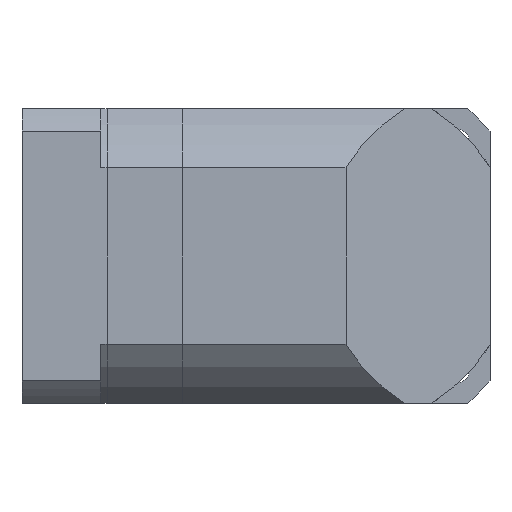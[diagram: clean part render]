
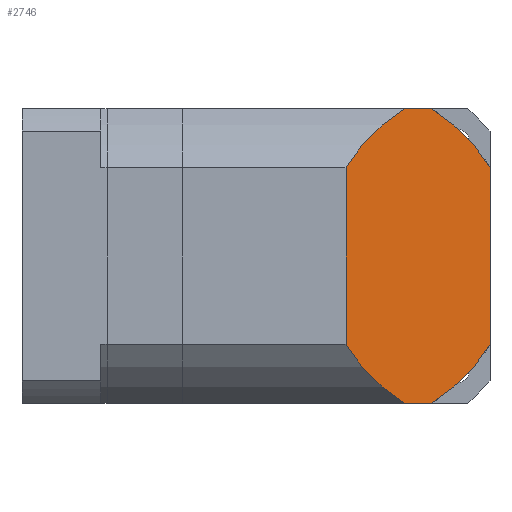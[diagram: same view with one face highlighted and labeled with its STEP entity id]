
A CAD part, left-side view. The second image highlights one B-rep face of the part: STEP entity #2746.
In plain terms, the highlighted planar face has unit normal (-0.707, -0.707, 0).
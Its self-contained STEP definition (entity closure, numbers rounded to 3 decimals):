
#531=PLANE('',#8536);
#1000=(
BOUNDED_CURVE()
B_SPLINE_CURVE(3,(#12584,#12585,#12586,#12587),.UNSPECIFIED.,.F.,.F.)
B_SPLINE_CURVE_WITH_KNOTS((4,4),(0.,1.),.UNSPECIFIED.)
CURVE()
GEOMETRIC_REPRESENTATION_ITEM()
RATIONAL_B_SPLINE_CURVE((1.,0.98,0.98,1.))
REPRESENTATION_ITEM('')
);
#1001=(
BOUNDED_CURVE()
B_SPLINE_CURVE(3,(#12596,#12597,#12598,#12599),.UNSPECIFIED.,.F.,.F.)
B_SPLINE_CURVE_WITH_KNOTS((4,4),(0.,1.),.UNSPECIFIED.)
CURVE()
GEOMETRIC_REPRESENTATION_ITEM()
RATIONAL_B_SPLINE_CURVE((1.,0.98,0.98,1.))
REPRESENTATION_ITEM('')
);
#1002=(
BOUNDED_CURVE()
B_SPLINE_CURVE(3,(#12624,#12625,#12626,#12627),.UNSPECIFIED.,.F.,.F.)
B_SPLINE_CURVE_WITH_KNOTS((4,4),(0.,1.),.UNSPECIFIED.)
CURVE()
GEOMETRIC_REPRESENTATION_ITEM()
RATIONAL_B_SPLINE_CURVE((1.,0.98,0.98,1.))
REPRESENTATION_ITEM('')
);
#1003=(
BOUNDED_CURVE()
B_SPLINE_CURVE(3,(#12636,#12637,#12638,#12639),.UNSPECIFIED.,.F.,.F.)
B_SPLINE_CURVE_WITH_KNOTS((4,4),(0.,1.),.UNSPECIFIED.)
CURVE()
GEOMETRIC_REPRESENTATION_ITEM()
RATIONAL_B_SPLINE_CURVE((1.,0.98,0.98,1.))
REPRESENTATION_ITEM('')
);
#1579=LINE('',#12724,#2167);
#1582=LINE('',#12728,#2170);
#1585=LINE('',#12732,#2173);
#1589=LINE('',#12744,#2177);
#2167=VECTOR('',#9638,1.);
#2170=VECTOR('',#9643,1.);
#2173=VECTOR('',#9648,1.);
#2177=VECTOR('',#9668,1.);
#2746=ADVANCED_FACE('',(#3240),#531,.F.);
#3240=FACE_OUTER_BOUND('',#3686,.T.);
#3686=EDGE_LOOP('',(#4371,#4372,#4373,#4374,#4375,#4376,#4377,#4378));
#4371=ORIENTED_EDGE('',*,*,#7389,.F.);
#4372=ORIENTED_EDGE('',*,*,#7314,.T.);
#4373=ORIENTED_EDGE('',*,*,#7377,.F.);
#4374=ORIENTED_EDGE('',*,*,#7330,.T.);
#4375=ORIENTED_EDGE('',*,*,#7380,.T.);
#4376=ORIENTED_EDGE('',*,*,#7334,.T.);
#4377=ORIENTED_EDGE('',*,*,#7374,.T.);
#4378=ORIENTED_EDGE('',*,*,#7318,.T.);
#6565=VERTEX_POINT('',#12578);
#6568=VERTEX_POINT('',#12583);
#6569=VERTEX_POINT('',#12590);
#6572=VERTEX_POINT('',#12595);
#6581=VERTEX_POINT('',#12623);
#6582=VERTEX_POINT('',#12628);
#6585=VERTEX_POINT('',#12635);
#6586=VERTEX_POINT('',#12640);
#7314=EDGE_CURVE('',#6565,#6568,#1000,.T.);
#7318=EDGE_CURVE('',#6569,#6572,#1001,.T.);
#7330=EDGE_CURVE('',#6582,#6581,#1002,.T.);
#7334=EDGE_CURVE('',#6586,#6585,#1003,.T.);
#7374=EDGE_CURVE('',#6585,#6569,#1579,.T.);
#7377=EDGE_CURVE('',#6582,#6568,#1582,.T.);
#7380=EDGE_CURVE('',#6581,#6586,#1585,.T.);
#7389=EDGE_CURVE('',#6565,#6572,#1589,.T.);
#8536=AXIS2_PLACEMENT_3D('',#12745,#9669,#9670);
#9638=DIRECTION('',(0.707,-0.707,0.));
#9643=DIRECTION('',(0.707,-0.707,0.));
#9648=DIRECTION('',(0.,0.,-1.));
#9668=DIRECTION('',(0.,0.,-1.));
#9669=DIRECTION('',(0.707,0.707,0.));
#9670=DIRECTION('',(0.,0.,1.));
#12578=CARTESIAN_POINT('',(-22.755,-54.534,154.177));
#12583=CARTESIAN_POINT('',(-40.714,-36.576,172.135));
#12584=CARTESIAN_POINT('',(-22.755,-54.534,154.177));
#12585=CARTESIAN_POINT('',(-27.204,-50.086,161.58));
#12586=CARTESIAN_POINT('',(-33.311,-43.979,167.687));
#12587=CARTESIAN_POINT('',(-40.714,-36.576,172.135));
#12590=CARTESIAN_POINT('',(-40.714,-36.576,82.135));
#12595=CARTESIAN_POINT('',(-22.755,-54.534,100.094));
#12596=CARTESIAN_POINT('',(-40.714,-36.576,82.135));
#12597=CARTESIAN_POINT('',(-33.311,-43.979,86.584));
#12598=CARTESIAN_POINT('',(-27.204,-50.086,92.691));
#12599=CARTESIAN_POINT('',(-22.755,-54.534,100.094));
#12623=CARTESIAN_POINT('',(-66.755,-10.534,154.177));
#12624=CARTESIAN_POINT('',(-48.797,-28.493,172.135));
#12625=CARTESIAN_POINT('',(-56.2,-21.09,167.687));
#12626=CARTESIAN_POINT('',(-62.307,-14.983,161.58));
#12627=CARTESIAN_POINT('',(-66.755,-10.534,154.177));
#12628=CARTESIAN_POINT('',(-48.797,-28.493,172.135));
#12635=CARTESIAN_POINT('',(-48.797,-28.493,82.135));
#12636=CARTESIAN_POINT('',(-66.755,-10.534,100.094));
#12637=CARTESIAN_POINT('',(-62.307,-14.983,92.691));
#12638=CARTESIAN_POINT('',(-56.2,-21.09,86.584));
#12639=CARTESIAN_POINT('',(-48.797,-28.493,82.135));
#12640=CARTESIAN_POINT('',(-66.755,-10.534,100.094));
#12724=CARTESIAN_POINT('',(-22.755,-54.534,82.135));
#12728=CARTESIAN_POINT('',(-22.755,-54.534,172.135));
#12732=CARTESIAN_POINT('',(-66.755,-10.534,172.135));
#12744=CARTESIAN_POINT('',(-22.755,-54.534,172.135));
#12745=CARTESIAN_POINT('',(-22.755,-54.534,172.135));
